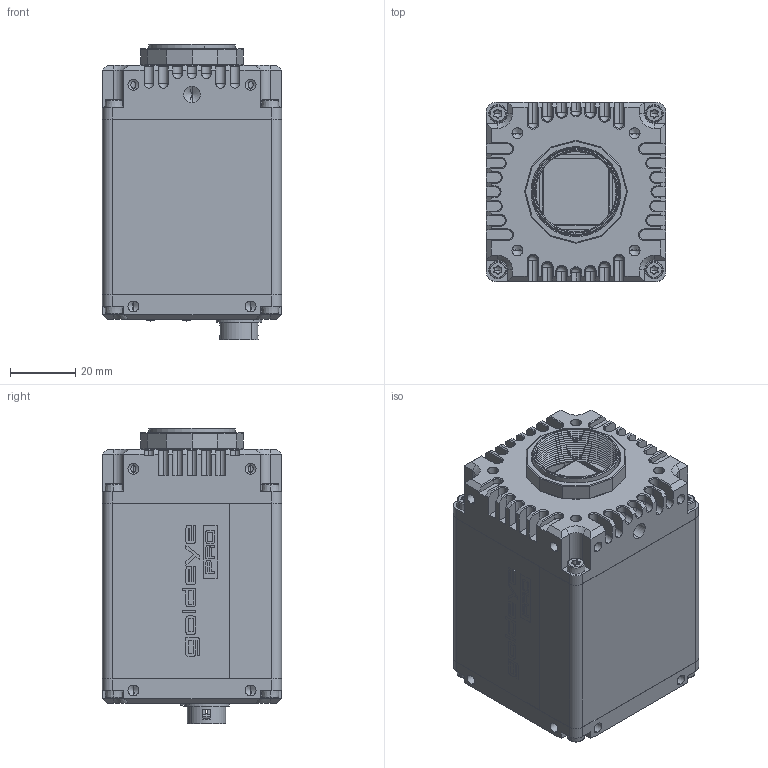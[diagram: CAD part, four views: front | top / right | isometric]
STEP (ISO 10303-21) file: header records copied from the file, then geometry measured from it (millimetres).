
FILE_DESCRIPTION (( 'STEP AP214' ), '1' );
FILE_NAME ('Goldeye Pro G5-530+320 VSWIR TEC1.STEP', '2024-07-17T07:45:29', ( '' ), ( '' ), 'SwSTEP 2.0', 'SolidWorks 2023', '' );
FILE_SCHEMA (( 'AUTOMOTIVE_DESIGN' ));
Length unit declared in the file: millimetre
Products named in the file (1): Goldeye Pro G5-530+320 VSWIR TEC1
Bounding box: 55.02 x 55 x 90.82 mm (x, y, z)
Volume: 87120.3 mm3; surface area: 66652.3 mm2
Topology: 46 solids, 46 shells, 3800 faces, 9628 edges, 6122 vertices
Faces by surface type: plane 1690, cylinder 1306, bspline 399, cone 317, sphere 50, torus 38
Entity records: 124582 total; most frequent: CARTESIAN_POINT 33841, ORIENTED_EDGE 19028, DIRECTION 17997, EDGE_CURVE 9514, AXIS2_PLACEMENT_3D 6121, VERTEX_POINT 6108, VECTOR 5755, LINE 5755
